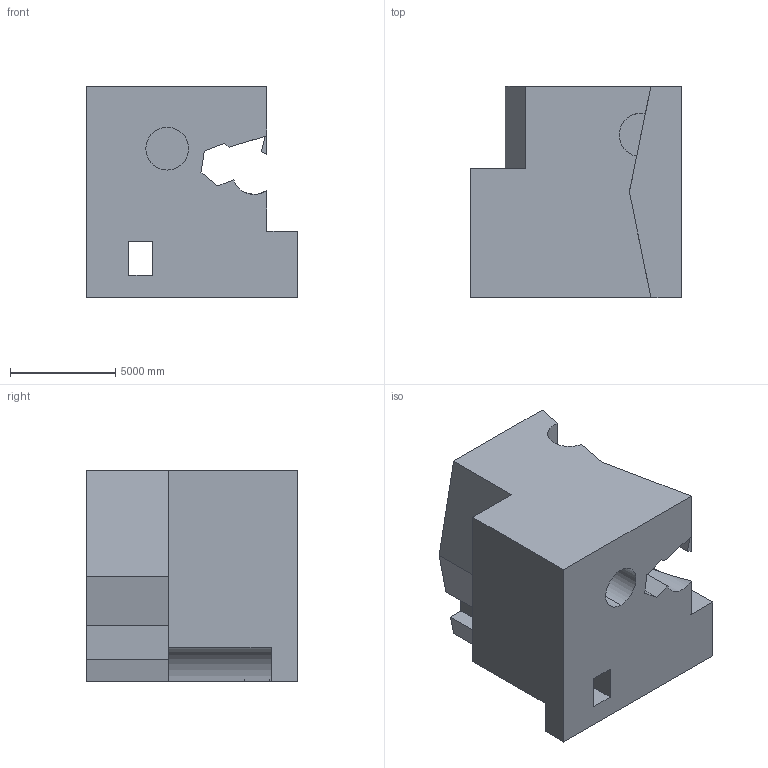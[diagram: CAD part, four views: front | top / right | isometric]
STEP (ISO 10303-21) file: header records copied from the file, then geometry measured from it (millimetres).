
FILE_DESCRIPTION (( 'STEP AP203' ), '1' );
FILE_NAME ('977.STEP', '2022-07-29T14:52:59', ( 'user' ), ( '' ), 'SwSTEP 2.0', 'SolidWorks 2021', '' );
FILE_SCHEMA (( 'CONFIG_CONTROL_DESIGN' ));
Length unit declared in the file: centimetre
Products named in the file (1): 977
Bounding box: 10000 x 10000 x 10000 mm (x, y, z)
Volume: 665664999985.5 mm3; surface area: 692615706.2 mm2
Topology: 1 solids, 1 shells, 43 faces, 129 edges, 86 vertices
Faces by surface type: plane 34, cylinder 9
Entity records: 1524 total; most frequent: CARTESIAN_POINT 271, ORIENTED_EDGE 258, DIRECTION 229, EDGE_CURVE 129, VECTOR 109, LINE 109, VERTEX_POINT 86, AXIS2_PLACEMENT_3D 60
